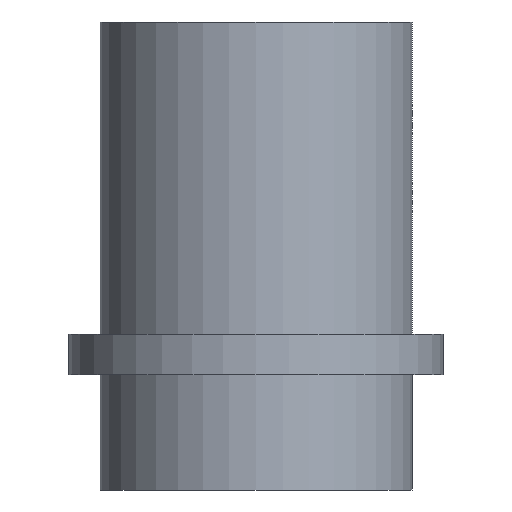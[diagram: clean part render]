
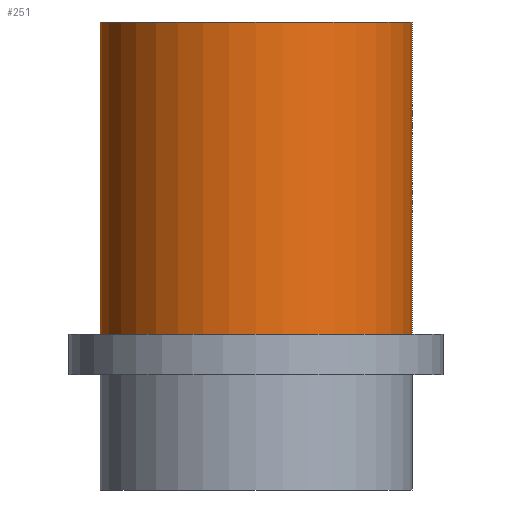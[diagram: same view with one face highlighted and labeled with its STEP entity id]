
A CAD part, left-side view. The second image highlights one B-rep face of the part: STEP entity #251.
In plain terms, the highlighted cylindrical face has radius 12.7 mm (diameter 25.4 mm), a full revolution.
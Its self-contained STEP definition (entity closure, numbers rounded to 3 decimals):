
#22=CIRCLE('',#286,12.7);
#23=CIRCLE('',#288,12.7);
#38=FACE_BOUND('',#70,.T.);
#39=FACE_BOUND('',#71,.T.);
#51=FACE_OUTER_BOUND('',#69,.T.);
#69=EDGE_LOOP('',(#215,#216,#217,#218));
#70=EDGE_LOOP('',(#219,#220));
#71=EDGE_LOOP('',(#221,#222));
#89=LINE('',#552,#103);
#103=VECTOR('',#345,12.7);
#106=B_SPLINE_CURVE_WITH_KNOTS('',3,(#368,#369,#370,#371,#372,#373,#374,
#375,#376,#377,#378,#379,#380,#381,#382,#383,#384,#385,#386,#387),
 .UNSPECIFIED.,.F.,.F.,(4,2,2,2,2,2,2,2,2,4),(0.911,0.96,
1.01,1.109,1.254,1.399,1.518,
1.637,1.729,1.822),.UNSPECIFIED.);
#107=B_SPLINE_CURVE_WITH_KNOTS('',3,(#388,#389,#390,#391,#392,#393,#394,
#395,#396,#397,#398,#399,#400,#401,#402,#403,#404,#405,#406,#407),
 .UNSPECIFIED.,.F.,.F.,(4,2,2,2,2,2,2,2,2,4),(0.,0.092,0.185,
0.303,0.422,0.567,0.713,
0.812,0.861,0.911),.UNSPECIFIED.);
#108=B_SPLINE_CURVE_WITH_KNOTS('',3,(#411,#412,#413,#414,#415,#416,#417,
#418,#419,#420,#421,#422,#423,#424,#425,#426,#427,#428,#429,#430),
 .UNSPECIFIED.,.F.,.F.,(4,2,2,2,2,2,2,2,2,4),(0.911,0.96,
1.01,1.109,1.254,1.399,1.518,
1.637,1.729,1.822),.UNSPECIFIED.);
#109=B_SPLINE_CURVE_WITH_KNOTS('',3,(#431,#432,#433,#434,#435,#436,#437,
#438,#439,#440,#441,#442,#443,#444,#445,#446,#447,#448,#449,#450),
 .UNSPECIFIED.,.F.,.F.,(4,2,2,2,2,2,2,2,2,4),(0.,0.092,0.185,
0.303,0.422,0.567,0.713,
0.812,0.861,0.911),.UNSPECIFIED.);
#113=VERTEX_POINT('',#366);
#114=VERTEX_POINT('',#367);
#115=VERTEX_POINT('',#408);
#116=VERTEX_POINT('',#410);
#131=VERTEX_POINT('',#548);
#132=VERTEX_POINT('',#551);
#136=EDGE_CURVE('',#113,#114,#106,.F.);
#137=EDGE_CURVE('',#114,#113,#107,.F.);
#139=EDGE_CURVE('',#116,#115,#108,.F.);
#140=EDGE_CURVE('',#115,#116,#109,.F.);
#161=EDGE_CURVE('',#131,#131,#22,.T.);
#162=EDGE_CURVE('',#131,#132,#89,.T.);
#163=EDGE_CURVE('',#132,#132,#23,.T.);
#215=ORIENTED_EDGE('',*,*,#161,.T.);
#216=ORIENTED_EDGE('',*,*,#162,.T.);
#217=ORIENTED_EDGE('',*,*,#163,.T.);
#218=ORIENTED_EDGE('',*,*,#162,.F.);
#219=ORIENTED_EDGE('',*,*,#139,.T.);
#220=ORIENTED_EDGE('',*,*,#140,.T.);
#221=ORIENTED_EDGE('',*,*,#136,.T.);
#222=ORIENTED_EDGE('',*,*,#137,.T.);
#239=CYLINDRICAL_SURFACE('',#287,12.7);
#251=ADVANCED_FACE('',(#51,#38,#39),#239,.T.);
#286=AXIS2_PLACEMENT_3D('',#549,#341,#342);
#287=AXIS2_PLACEMENT_3D('',#550,#343,#344);
#288=AXIS2_PLACEMENT_3D('',#553,#346,#347);
#341=DIRECTION('center_axis',(0.,0.,-1.));
#342=DIRECTION('ref_axis',(-1.,0.,0.));
#343=DIRECTION('center_axis',(0.,0.,-1.));
#344=DIRECTION('ref_axis',(-1.,0.,0.));
#345=DIRECTION('',(0.,0.,-1.));
#346=DIRECTION('center_axis',(0.,0.,1.));
#347=DIRECTION('ref_axis',(-1.,0.,0.));
#366=CARTESIAN_POINT('',(-94.445,11.421,19.));
#367=CARTESIAN_POINT('',(-89.281,6.812,19.));
#368=CARTESIAN_POINT('Ctrl Pts',(-89.281,6.812,19.));
#369=CARTESIAN_POINT('Ctrl Pts',(-89.281,6.812,18.835));
#370=CARTESIAN_POINT('Ctrl Pts',(-89.299,6.839,18.674));
#371=CARTESIAN_POINT('Ctrl Pts',(-89.362,6.937,18.367));
#372=CARTESIAN_POINT('Ctrl Pts',(-89.408,7.008,18.221));
#373=CARTESIAN_POINT('Ctrl Pts',(-89.578,7.261,17.811));
#374=CARTESIAN_POINT('Ctrl Pts',(-89.736,7.485,17.575));
#375=CARTESIAN_POINT('Ctrl Pts',(-90.144,8.019,17.114));
#376=CARTESIAN_POINT('Ctrl Pts',(-90.448,8.385,16.889));
#377=CARTESIAN_POINT('Ctrl Pts',(-91.133,9.106,16.581));
#378=CARTESIAN_POINT('Ctrl Pts',(-91.514,9.461,16.5));
#379=CARTESIAN_POINT('Ctrl Pts',(-92.19,10.023,16.5));
#380=CARTESIAN_POINT('Ctrl Pts',(-92.533,10.281,16.555));
#381=CARTESIAN_POINT('Ctrl Pts',(-93.194,10.73,16.821));
#382=CARTESIAN_POINT('Ctrl Pts',(-93.511,10.921,17.031));
#383=CARTESIAN_POINT('Ctrl Pts',(-93.962,11.175,17.507));
#384=CARTESIAN_POINT('Ctrl Pts',(-94.142,11.269,17.774));
#385=CARTESIAN_POINT('Ctrl Pts',(-94.383,11.391,18.366));
#386=CARTESIAN_POINT('Ctrl Pts',(-94.445,11.421,18.692));
#387=CARTESIAN_POINT('Ctrl Pts',(-94.445,11.421,19.));
#388=CARTESIAN_POINT('Ctrl Pts',(-94.445,11.421,19.));
#389=CARTESIAN_POINT('Ctrl Pts',(-94.445,11.421,19.308));
#390=CARTESIAN_POINT('Ctrl Pts',(-94.383,11.391,19.634));
#391=CARTESIAN_POINT('Ctrl Pts',(-94.142,11.269,20.226));
#392=CARTESIAN_POINT('Ctrl Pts',(-93.962,11.175,20.493));
#393=CARTESIAN_POINT('Ctrl Pts',(-93.511,10.921,20.969));
#394=CARTESIAN_POINT('Ctrl Pts',(-93.194,10.73,21.179));
#395=CARTESIAN_POINT('Ctrl Pts',(-92.533,10.281,21.445));
#396=CARTESIAN_POINT('Ctrl Pts',(-92.19,10.023,21.5));
#397=CARTESIAN_POINT('Ctrl Pts',(-91.514,9.461,21.5));
#398=CARTESIAN_POINT('Ctrl Pts',(-91.133,9.106,21.419));
#399=CARTESIAN_POINT('Ctrl Pts',(-90.448,8.385,21.111));
#400=CARTESIAN_POINT('Ctrl Pts',(-90.144,8.019,20.886));
#401=CARTESIAN_POINT('Ctrl Pts',(-89.736,7.485,20.425));
#402=CARTESIAN_POINT('Ctrl Pts',(-89.578,7.261,20.189));
#403=CARTESIAN_POINT('Ctrl Pts',(-89.408,7.008,19.779));
#404=CARTESIAN_POINT('Ctrl Pts',(-89.362,6.937,19.633));
#405=CARTESIAN_POINT('Ctrl Pts',(-89.299,6.839,19.326));
#406=CARTESIAN_POINT('Ctrl Pts',(-89.281,6.812,19.165));
#407=CARTESIAN_POINT('Ctrl Pts',(-89.281,6.812,19.));
#408=CARTESIAN_POINT('',(-88.832,-6.047,19.));
#410=CARTESIAN_POINT('',(-93.662,-11.005,19.));
#411=CARTESIAN_POINT('Ctrl Pts',(-88.832,-6.047,19.));
#412=CARTESIAN_POINT('Ctrl Pts',(-88.832,-6.047,19.165));
#413=CARTESIAN_POINT('Ctrl Pts',(-88.848,-6.076,19.326));
#414=CARTESIAN_POINT('Ctrl Pts',(-88.904,-6.178,19.633));
#415=CARTESIAN_POINT('Ctrl Pts',(-88.945,-6.252,19.779));
#416=CARTESIAN_POINT('Ctrl Pts',(-89.097,-6.516,20.189));
#417=CARTESIAN_POINT('Ctrl Pts',(-89.239,-6.751,20.425));
#418=CARTESIAN_POINT('Ctrl Pts',(-89.608,-7.312,20.886));
#419=CARTESIAN_POINT('Ctrl Pts',(-89.887,-7.698,21.111));
#420=CARTESIAN_POINT('Ctrl Pts',(-90.519,-8.465,21.419));
#421=CARTESIAN_POINT('Ctrl Pts',(-90.874,-8.846,21.5));
#422=CARTESIAN_POINT('Ctrl Pts',(-91.51,-9.454,21.5));
#423=CARTESIAN_POINT('Ctrl Pts',(-91.834,-9.735,21.445));
#424=CARTESIAN_POINT('Ctrl Pts',(-92.462,-10.229,21.179));
#425=CARTESIAN_POINT('Ctrl Pts',(-92.765,-10.441,20.969));
#426=CARTESIAN_POINT('Ctrl Pts',(-93.197,-10.727,20.493));
#427=CARTESIAN_POINT('Ctrl Pts',(-93.37,-10.833,20.226));
#428=CARTESIAN_POINT('Ctrl Pts',(-93.602,-10.972,19.634));
#429=CARTESIAN_POINT('Ctrl Pts',(-93.662,-11.005,19.308));
#430=CARTESIAN_POINT('Ctrl Pts',(-93.662,-11.005,19.));
#431=CARTESIAN_POINT('Ctrl Pts',(-93.662,-11.005,19.));
#432=CARTESIAN_POINT('Ctrl Pts',(-93.662,-11.005,18.692));
#433=CARTESIAN_POINT('Ctrl Pts',(-93.602,-10.972,18.366));
#434=CARTESIAN_POINT('Ctrl Pts',(-93.37,-10.833,17.774));
#435=CARTESIAN_POINT('Ctrl Pts',(-93.197,-10.727,17.507));
#436=CARTESIAN_POINT('Ctrl Pts',(-92.765,-10.441,17.031));
#437=CARTESIAN_POINT('Ctrl Pts',(-92.462,-10.229,16.821));
#438=CARTESIAN_POINT('Ctrl Pts',(-91.834,-9.735,16.555));
#439=CARTESIAN_POINT('Ctrl Pts',(-91.51,-9.454,16.5));
#440=CARTESIAN_POINT('Ctrl Pts',(-90.874,-8.846,16.5));
#441=CARTESIAN_POINT('Ctrl Pts',(-90.519,-8.465,16.581));
#442=CARTESIAN_POINT('Ctrl Pts',(-89.887,-7.698,16.889));
#443=CARTESIAN_POINT('Ctrl Pts',(-89.608,-7.312,17.114));
#444=CARTESIAN_POINT('Ctrl Pts',(-89.239,-6.751,17.575));
#445=CARTESIAN_POINT('Ctrl Pts',(-89.097,-6.516,17.811));
#446=CARTESIAN_POINT('Ctrl Pts',(-88.945,-6.252,18.221));
#447=CARTESIAN_POINT('Ctrl Pts',(-88.904,-6.178,18.367));
#448=CARTESIAN_POINT('Ctrl Pts',(-88.848,-6.076,18.674));
#449=CARTESIAN_POINT('Ctrl Pts',(-88.832,-6.047,18.835));
#450=CARTESIAN_POINT('Ctrl Pts',(-88.832,-6.047,19.));
#548=CARTESIAN_POINT('',(-87.3,0.,38.1));
#549=CARTESIAN_POINT('Origin',(-100.,0.,38.1));
#550=CARTESIAN_POINT('Origin',(-100.,0.,38.1));
#551=CARTESIAN_POINT('',(-87.3,0.,12.7));
#552=CARTESIAN_POINT('',(-87.3,0.,38.1));
#553=CARTESIAN_POINT('Origin',(-100.,0.,12.7));
